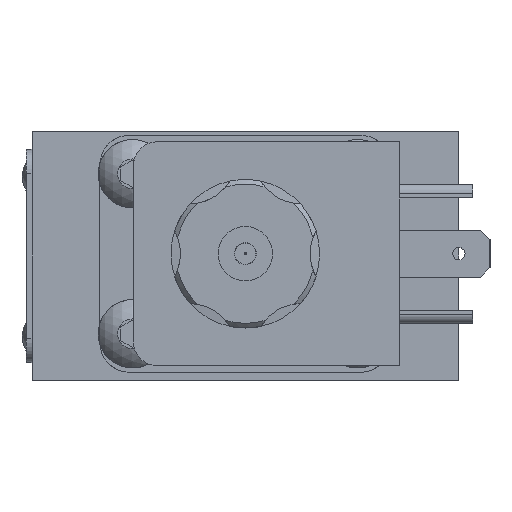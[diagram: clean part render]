
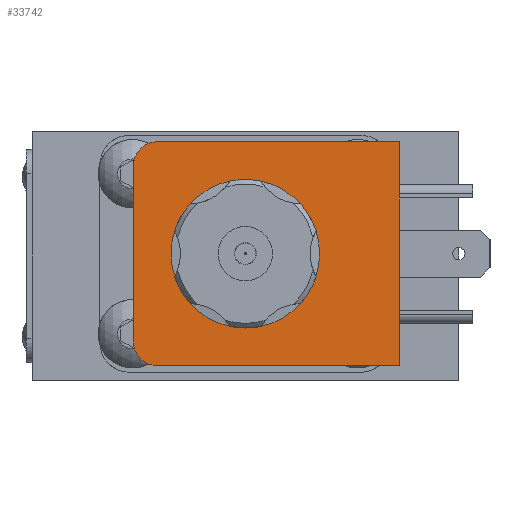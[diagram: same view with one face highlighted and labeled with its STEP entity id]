
A CAD part, left-side view. The second image highlights one B-rep face of the part: STEP entity #33742.
In plain terms, the highlighted planar face has unit normal (-1, 0, 0).
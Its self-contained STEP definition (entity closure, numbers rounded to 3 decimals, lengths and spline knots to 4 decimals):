
#1114=FACE_BOUND('',#4436,.T.);
#1426=PLANE('',#36015);
#2401=FACE_OUTER_BOUND('',#4435,.T.);
#4435=EDGE_LOOP('',(#22221,#22222,#22223,#22224,#22225,#22226));
#4436=EDGE_LOOP('',(#22227));
#6543=CIRCLE('',#35702,0.9957);
#6717=CIRCLE('',#36009,0.3175);
#6718=CIRCLE('',#36012,0.3175);
#8691=LINE('',#52788,#11027);
#8694=LINE('',#52796,#11030);
#8695=LINE('',#52799,#11031);
#8697=LINE('',#52802,#11033);
#11027=VECTOR('',#40612,1.);
#11030=VECTOR('',#40621,1.);
#11031=VECTOR('',#40624,1.);
#11033=VECTOR('',#40628,1.);
#13274=VERTEX_POINT('',#51024);
#13536=VERTEX_POINT('',#52780);
#13537=VERTEX_POINT('',#52782);
#13538=VERTEX_POINT('',#52786);
#13539=VERTEX_POINT('',#52790);
#13540=VERTEX_POINT('',#52794);
#13541=VERTEX_POINT('',#52798);
#16458=EDGE_CURVE('',#13274,#13274,#6543,.T.);
#16846=EDGE_CURVE('',#13536,#13537,#6717,.T.);
#16849=EDGE_CURVE('',#13538,#13536,#8691,.T.);
#16850=EDGE_CURVE('',#13539,#13538,#6718,.T.);
#16853=EDGE_CURVE('',#13539,#13540,#8694,.T.);
#16854=EDGE_CURVE('',#13537,#13541,#8695,.T.);
#16856=EDGE_CURVE('',#13540,#13541,#8697,.T.);
#22221=ORIENTED_EDGE('',*,*,#16846,.F.);
#22222=ORIENTED_EDGE('',*,*,#16849,.F.);
#22223=ORIENTED_EDGE('',*,*,#16850,.F.);
#22224=ORIENTED_EDGE('',*,*,#16853,.T.);
#22225=ORIENTED_EDGE('',*,*,#16856,.T.);
#22226=ORIENTED_EDGE('',*,*,#16854,.F.);
#22227=ORIENTED_EDGE('',*,*,#16458,.T.);
#33742=ADVANCED_FACE('',(#2401,#1114),#1426,.T.);
#35702=AXIS2_PLACEMENT_3D('',#51025,#39826,#39827);
#36009=AXIS2_PLACEMENT_3D('',#52783,#40606,#40607);
#36012=AXIS2_PLACEMENT_3D('',#52791,#40615,#40616);
#36015=AXIS2_PLACEMENT_3D('',#52801,#40626,#40627);
#39826=DIRECTION('center_axis',(1.,0.,0.));
#39827=DIRECTION('ref_axis',(0.,0.,
-1.));
#40606=DIRECTION('center_axis',(1.,0.,0.));
#40607=DIRECTION('ref_axis',(0.,0.707,0.707));
#40612=DIRECTION('',(0.,0.,1.));
#40615=DIRECTION('center_axis',(1.,0.,0.));
#40616=DIRECTION('ref_axis',(0.,0.707,-0.707));
#40621=DIRECTION('',(0.,-1.,0.));
#40624=DIRECTION('',(0.,-1.,0.));
#40626=DIRECTION('center_axis',(-1.,0.,0.));
#40627=DIRECTION('ref_axis',(0.,-1.,0.));
#40628=DIRECTION('',(0.,0.,1.));
#51024=CARTESIAN_POINT('',(-9.8649,0.,1.0262));
#51025=CARTESIAN_POINT('Origin',(-9.8649,0.,0.0305));
#52780=CARTESIAN_POINT('',(-9.8649,1.4986,1.213));
#52782=CARTESIAN_POINT('',(-9.8649,1.1811,1.5305));
#52783=CARTESIAN_POINT('Origin',(-9.8649,1.1811,1.213));
#52786=CARTESIAN_POINT('',(-9.8649,1.4986,-1.152));
#52788=CARTESIAN_POINT('',(-9.8649,1.4986,-1.4695));
#52790=CARTESIAN_POINT('',(-9.8649,1.1811,-1.4695));
#52791=CARTESIAN_POINT('Origin',(-9.8649,1.1811,-1.152));
#52794=CARTESIAN_POINT('',(-9.8649,-2.0614,-1.4695));
#52796=CARTESIAN_POINT('',(-9.8649,1.4986,-1.4695));
#52798=CARTESIAN_POINT('',(-9.8649,-2.0614,1.5305));
#52799=CARTESIAN_POINT('',(-9.8649,1.4986,1.5305));
#52801=CARTESIAN_POINT('Origin',(-9.8649,1.4986,-1.4695));
#52802=CARTESIAN_POINT('',(-9.8649,-2.0614,-1.4695));
